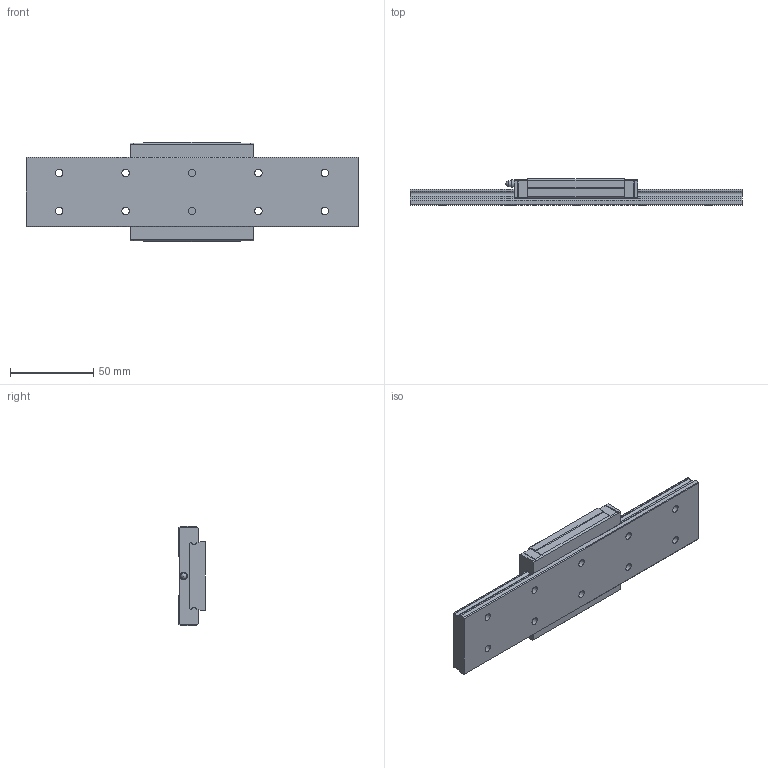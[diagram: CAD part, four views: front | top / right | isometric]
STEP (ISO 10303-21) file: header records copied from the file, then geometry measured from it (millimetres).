
FILE_DESCRIPTION(/* description */ ('STEP AP203'),/* implementation_level */ '2;1');
FILE_NAME(/* name */ 'RSX15M1WNUU-200LM_G20_0_PB107_62-75_0_0_0_1',/* time_stamp */ '2024-05-23T08:37:15+02:00',/* author */ ('License CC BY-ND 4.0'),/* organization */ ('CADENAS'),/* preprocessor_version */ 'ST-DEVELOPER v19.3',/* originating_system */ 'PARTsolutions',/* authorisation */ ' ');
FILE_SCHEMA (('CONFIG_CONTROL_DESIGN','FEATURE_BASED_PROCESS_PLANNING'));
Length unit declared in the file: millimetre
Products named in the file (4): RSX15M1WNUU-200LM_G20_0_PB107_62-75_0_0_0_1; RSX15M1W20020 Track; RSX15M1WNUUPB1071 Slider; RSX M1 PB107 grease nipple
Assembly tree (3 placements, depth 2):
  RSX15M1WNUU-200LM_G20_0_PB107_62-75_0_0_0_1
    RSX15M1W20020 Track
    RSX15M1WNUUPB1071 Slider
    RSX M1 PB107 grease nipple
Bounding box: 200 x 16 x 60 mm (x, y, z)
Volume: 108866.9 mm3; surface area: 35583.3 mm2
Topology: 3 solids, 3 shells, 139 faces, 356 edges, 236 vertices
Faces by surface type: plane 89, cylinder 41, cone 8, sphere 1
Full cylindrical faces by diameter (mm): 3 x3, 3.242 x4, 3.5 x1, 4.5 x11, 8 x10
Entity records: 4081 total; most frequent: CARTESIAN_POINT 681, DIRECTION 680, ORIENTED_EDGE 616, EDGE_CURVE 308, VERTEX_POINT 230, AXIS2_PLACEMENT_3D 229, LINE 222, VECTOR 222
